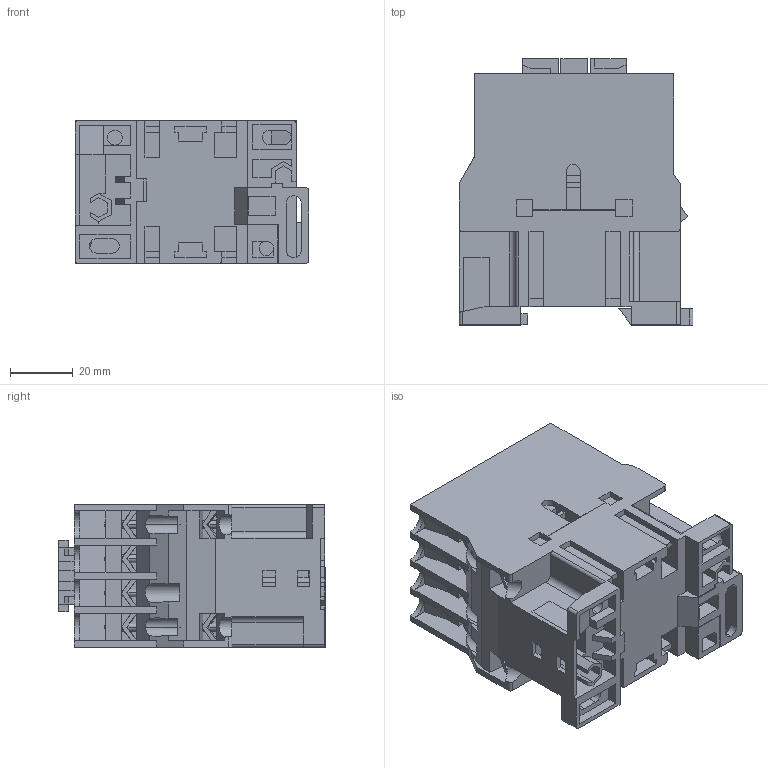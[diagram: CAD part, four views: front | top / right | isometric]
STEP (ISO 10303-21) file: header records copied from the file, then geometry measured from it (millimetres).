
FILE_DESCRIPTION (( 'STEP AP214' ), '1' );
FILE_NAME ('ﾏﾌﾋ - 1160ﾄﾌ.STEP', '2016-05-25T12:03:37', ( '' ), ( '' ), 'SwSTEP 2.0', 'SolidWorks 2012', '' );
FILE_SCHEMA (( 'AUTOMOTIVE_DESIGN' ));
Length unit declared in the file: millimetre
Products named in the file (1): ﾏﾌﾋ - 1160ﾄﾌ
Bounding box: 74.6 x 85 x 45.5 mm (x, y, z)
Volume: 192905.4 mm3; surface area: 44230.4 mm2
Topology: 1 solids, 1 shells, 885 faces, 2471 edges, 1605 vertices
Faces by surface type: plane 763, cylinder 110, sphere 12
Entity records: 37699 total; most frequent: CARTESIAN_POINT 5189, ORIENTED_EDGE 4920, DIRECTION 4470, EDGE_CURVE 2460, LINE 2074, VECTOR 2074, VERTEX_POINT 1603, AXIS2_PLACEMENT_3D 1198
